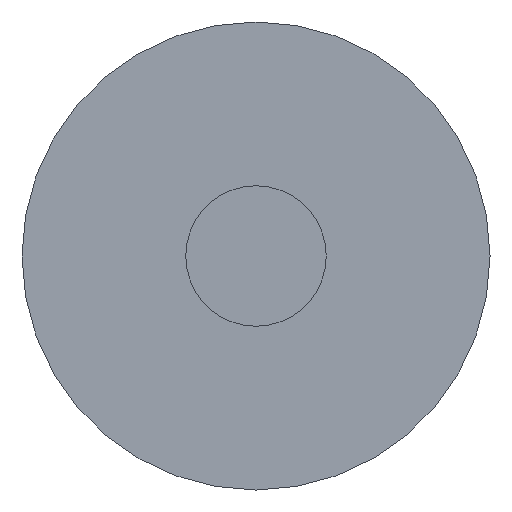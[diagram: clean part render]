
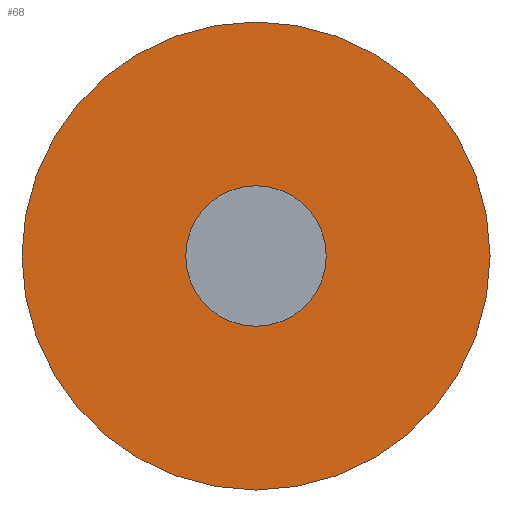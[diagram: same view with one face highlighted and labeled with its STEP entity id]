
A CAD part, front view. The second image highlights one B-rep face of the part: STEP entity #68.
In plain terms, the highlighted planar face has unit normal (0, -1, 0).
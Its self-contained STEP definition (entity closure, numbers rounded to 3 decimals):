
#14=FACE_BOUND('',#31,.T.);
#20=PLANE('',#97);
#25=FACE_OUTER_BOUND('',#30,.T.);
#30=EDGE_LOOP('',(#60));
#31=EDGE_LOOP('',(#61));
#38=CIRCLE('',#92,3.);
#40=CIRCLE('',#96,10.);
#42=VERTEX_POINT('',#125);
#44=VERTEX_POINT('',#132);
#47=EDGE_CURVE('',#42,#42,#38,.T.);
#50=EDGE_CURVE('',#44,#44,#40,.T.);
#60=ORIENTED_EDGE('',*,*,#50,.T.);
#61=ORIENTED_EDGE('',*,*,#47,.T.);
#68=ADVANCED_FACE('',(#25,#14),#20,.F.);
#92=AXIS2_PLACEMENT_3D('',#127,#106,#107);
#96=AXIS2_PLACEMENT_3D('',#134,#115,#116);
#97=AXIS2_PLACEMENT_3D('',#135,#117,#118);
#106=DIRECTION('center_axis',(0.,1.,0.));
#107=DIRECTION('ref_axis',(-1.,0.,0.));
#115=DIRECTION('center_axis',(0.,-1.,0.));
#116=DIRECTION('ref_axis',(1.,0.,0.));
#117=DIRECTION('center_axis',(0.,1.,0.));
#118=DIRECTION('ref_axis',(0.,0.,1.));
#125=CARTESIAN_POINT('',(3.,0.,0.));
#127=CARTESIAN_POINT('Origin',(0.,0.,0.));
#132=CARTESIAN_POINT('',(-10.,0.,0.));
#134=CARTESIAN_POINT('Origin',(0.,0.,0.));
#135=CARTESIAN_POINT('Origin',(0.,0.,0.));
